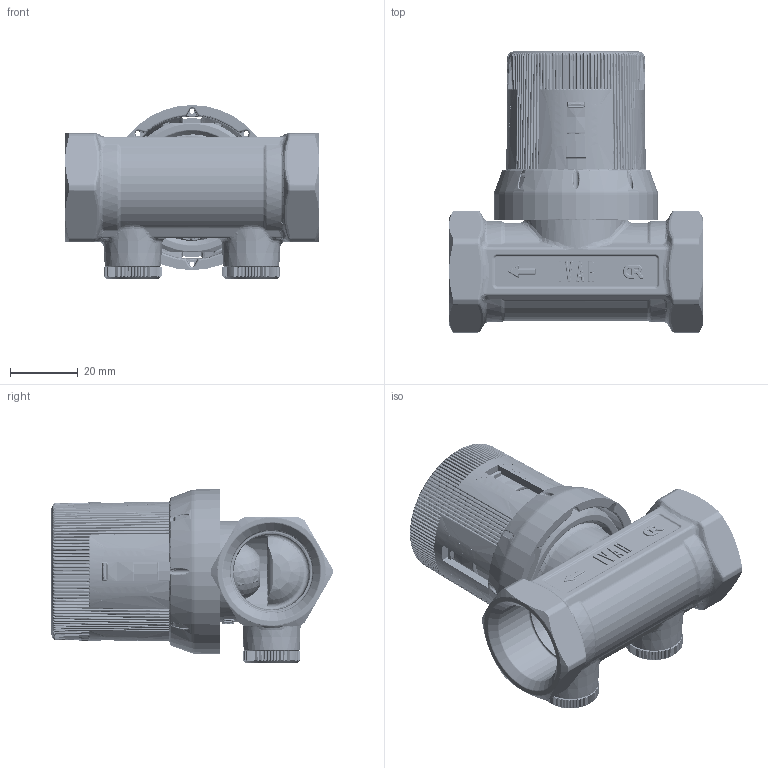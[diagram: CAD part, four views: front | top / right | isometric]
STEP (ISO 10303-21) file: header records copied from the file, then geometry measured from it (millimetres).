
FILE_DESCRIPTION(/* description */ (''),/* implementation_level */ '2;1');
FILE_NAME(/* name */ 'F:\Артём\00000\Работа удаленка\130\VT.042.G.30005.stp',/* time_stamp */ '2021-04-05T15:44:22+03:00',/* author */ ('almis'),/* organization */ (''),/* preprocessor_version */ 'ST-DEVELOPER v18',/* originating_system */ 'Autodesk Inventor 2020',/* authorisation */ '');
FILE_SCHEMA (('AUTOMOTIVE_DESIGN { 1 0 10303 214 3 1 1 }'));
Length unit declared in the file: millimetre
Products named in the file (1): 550111 partner DN20
Bounding box: 75 x 83.1 x 51.39 mm (x, y, z)
Volume: 81600.5 mm3; surface area: 55242.3 mm2
Topology: 1 solids, 14 shells, 7818 faces, 20554 edges, 12644 vertices
Faces by surface type: bspline 2409, plane 1914, cylinder 1839, torus 702, cone 660, sphere 294
Full cylindrical faces by diameter (mm): 5 x2, 6 x1, 6.2 x2, 6.5 x1, 7 x7, 8 x1, 9.4 x3, 9.5 x3, 10.5 x1, 11.5 x4, 12 x2, 12.1 x1, 14 x1, 15 x3, 15.2 x2, 17 x1, 17.2 x1, 18 x1, 19 x2, 20.5 x2, 21 x1, 22.5 x2, 23 x1, 24.5 x2, 26.1 x1, 27.1 x1, 27.8 x1, 30 x2, 30.5 x1, 31.8 x2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
Entity records: 315801 total; most frequent: CARTESIAN_POINT 128930, ORIENTED_EDGE 40342, DIRECTION 35556, EDGE_CURVE 20171, AXIS2_PLACEMENT_3D 14510, VERTEX_POINT 12573, EDGE_LOOP 8046, FACE_OUTER_BOUND 7747
